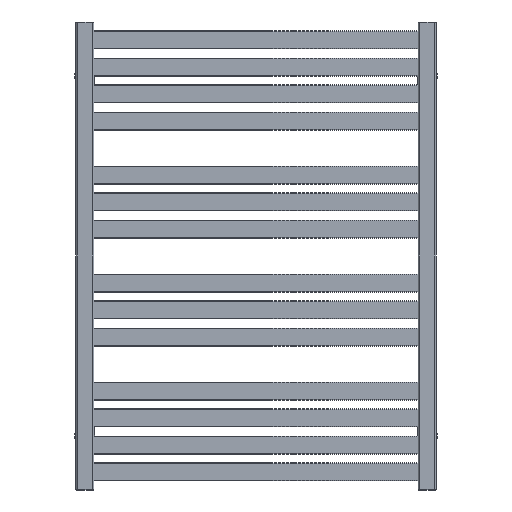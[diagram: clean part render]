
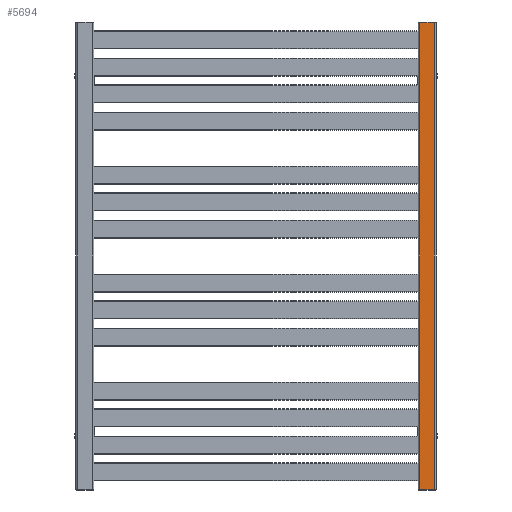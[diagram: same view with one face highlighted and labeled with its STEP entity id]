
A CAD part, front view. The second image highlights one B-rep face of the part: STEP entity #5694.
In plain terms, the highlighted planar face has unit normal (0, -1, 0).
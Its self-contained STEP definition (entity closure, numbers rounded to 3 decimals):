
#4188=CARTESIAN_POINT('',(273.,-15.,1.5));
#4189=VERTEX_POINT('',#4188);
#4246=CARTESIAN_POINT('',(297.0,-15.,1.5));
#4247=VERTEX_POINT('',#4246);
#4255=CARTESIAN_POINT('',(297.0,-15.,1.5));
#4256=DIRECTION('',(-1.0,0.0,0.0));
#4257=VECTOR('',#4256,24.);
#4258=LINE('',#4255,#4257);
#4259=EDGE_CURVE('',#4247,#4189,#4258,.T.);
#4911=CARTESIAN_POINT('',(273.,-15.,778.5));
#4912=VERTEX_POINT('',#4911);
#4913=CARTESIAN_POINT('',(273.,-15.,1.5));
#4914=DIRECTION('',(0.0,0.0,1.0));
#4915=VECTOR('',#4914,777.0);
#4916=LINE('',#4913,#4915);
#4917=EDGE_CURVE('',#4189,#4912,#4916,.T.);
#5129=CARTESIAN_POINT('',(297.0,-15.,778.5));
#5130=VERTEX_POINT('',#5129);
#5146=CARTESIAN_POINT('',(273.,-15.,778.5));
#5147=DIRECTION('',(1.0,0.0,0.0));
#5148=VECTOR('',#5147,24.);
#5149=LINE('',#5146,#5148);
#5150=EDGE_CURVE('',#4912,#5130,#5149,.T.);
#5674=CARTESIAN_POINT('',(297.0,-15.,778.5));
#5675=DIRECTION('',(0.0,0.0,-1.0));
#5676=VECTOR('',#5675,777.0);
#5677=LINE('',#5674,#5676);
#5678=EDGE_CURVE('',#5130,#4247,#5677,.T.);
#5683=CARTESIAN_POINT('',(300.,-15.,0.0));
#5684=DIRECTION('',(0.0,-1.0,0.0));
#5685=DIRECTION('',(0.0,0.0,-1.0));
#5686=AXIS2_PLACEMENT_3D('',#5683,#5684,#5685);
#5687=PLANE('',#5686);
#5688=ORIENTED_EDGE('',*,*,#4259,.F.);
#5689=ORIENTED_EDGE('',*,*,#5678,.F.);
#5690=ORIENTED_EDGE('',*,*,#5150,.F.);
#5691=ORIENTED_EDGE('',*,*,#4917,.F.);
#5692=EDGE_LOOP('',(#5688,#5689,#5690,#5691));
#5693=FACE_OUTER_BOUND('',#5692,.T.);
#5694=ADVANCED_FACE('',(#5693),#5687,.T.);
